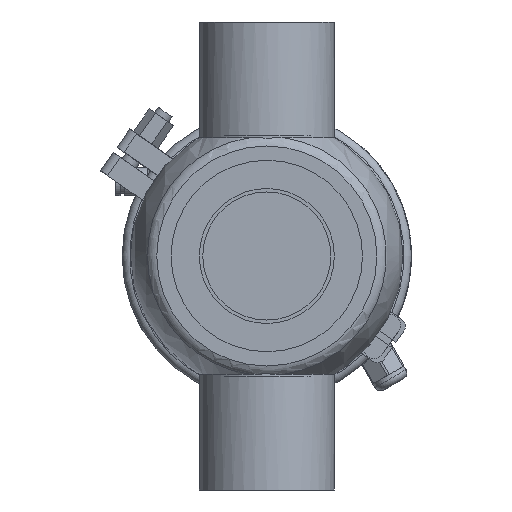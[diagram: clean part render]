
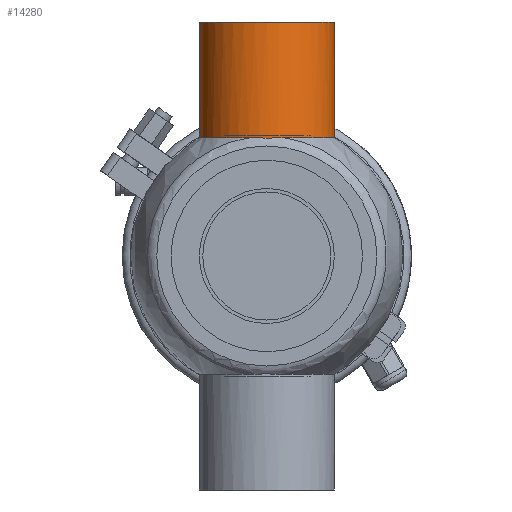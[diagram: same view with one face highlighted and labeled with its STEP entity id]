
A CAD part, front view. The second image highlights one B-rep face of the part: STEP entity #14280.
In plain terms, the highlighted cylindrical face has radius 31.75 mm (diameter 63.5 mm), a full revolution.
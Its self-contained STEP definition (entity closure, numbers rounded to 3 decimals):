
#2308 = DIRECTION ( 'NONE',  ( -1., 0., 0. ) ) ;
#3539 = CARTESIAN_POINT ( 'NONE',  ( 55.532, -31.293, 5.541 ) ) ;
#3625 = VERTEX_POINT ( 'NONE', #31696 ) ;
#4140 = CARTESIAN_POINT ( 'NONE',  ( 55.442, -31.749, 1.419 ) ) ;
#6976 = CARTESIAN_POINT ( 'NONE',  ( 0., 0., 0. ) ) ;
#7154 = B_SPLINE_CURVE_WITH_KNOTS ( 'NONE', 3,
 ( #23606, #27617, #3539, #46378, #4140, #59682, #41778, #45745, #18411, #17488, #36225, #37147 ),
 .UNSPECIFIED., .F., .F.,
 ( 4, 2, 2, 2, 2, 4 ),
 ( 0., 0.004, 0.008, 0.01, 0.012, 0.017 ),
 .UNSPECIFIED. ) ;
#8878 = AXIS2_PLACEMENT_3D ( 'NONE', #6976, #2308, #54411 ) ;
#9435 = EDGE_LOOP ( 'NONE', ( #42635, #37507 ) ) ;
#10994 = CARTESIAN_POINT ( 'NONE',  ( 55.569, -30.657, -8.258 ) ) ;
#11937 = DIRECTION ( 'NONE',  ( 1., 0., 0. ) ) ;
#12521 = CARTESIAN_POINT ( 'NONE',  ( 55.569, -30.657, 8.258 ) ) ;
#13215 = VERTEX_POINT ( 'NONE', #12521 ) ;
#13331 = ORIENTED_EDGE ( 'NONE', *, *, #26474, .T. ) ;
#13838 = EDGE_LOOP ( 'NONE', ( #13331 ) ) ;
#14280 = ADVANCED_FACE ( 'NONE', ( #21801, #49207 ), #39939, .T. ) ;
#14621 = VERTEX_POINT ( 'NONE', #10994 ) ;
#15134 = DIRECTION ( 'NONE',  ( -1., 0., 0. ) ) ;
#17488 = CARTESIAN_POINT ( 'NONE',  ( 55.532, -31.295, -5.534 ) ) ;
#18411 = CARTESIAN_POINT ( 'NONE',  ( 55.483, -31.569, -3.456 ) ) ;
#19501 = CIRCLE ( 'NONE', #51877, 31.75 ) ;
#21618 = AXIS2_PLACEMENT_3D ( 'NONE', #60020, #11937, #31944 ) ;
#21801 = FACE_OUTER_BOUND ( 'NONE', #9435, .T. ) ;
#23606 = CARTESIAN_POINT ( 'NONE',  ( 55.569, -30.657, 8.258 ) ) ;
#26474 = EDGE_CURVE ( 'NONE', #3625, #3625, #19501, .T. ) ;
#27617 = CARTESIAN_POINT ( 'NONE',  ( 55.569, -31.022, 6.904 ) ) ;
#31696 = CARTESIAN_POINT ( 'NONE',  ( 110., 0., 31.75 ) ) ;
#31944 = DIRECTION ( 'NONE',  ( 0., 0., 1. ) ) ;
#33861 = DIRECTION ( 'NONE',  ( 0., 0., 1. ) ) ;
#36225 = CARTESIAN_POINT ( 'NONE',  ( 55.569, -31.022, -6.903 ) ) ;
#36354 = CIRCLE ( 'NONE', #21618, 31.75 ) ;
#37147 = CARTESIAN_POINT ( 'NONE',  ( 55.569, -30.657, -8.258 ) ) ;
#37453 = EDGE_CURVE ( 'NONE', #13215, #14621, #7154, .T. ) ;
#37507 = ORIENTED_EDGE ( 'NONE', *, *, #37453, .T. ) ;
#38448 = EDGE_CURVE ( 'NONE', #14621, #13215, #36354, .T. ) ;
#39939 = CYLINDRICAL_SURFACE ( 'NONE', #8878, 31.75 ) ;
#41778 = CARTESIAN_POINT ( 'NONE',  ( 55.447, -31.729, -1.361 ) ) ;
#42635 = ORIENTED_EDGE ( 'NONE', *, *, #38448, .T. ) ;
#45745 = CARTESIAN_POINT ( 'NONE',  ( 55.468, -31.638, -2.759 ) ) ;
#46378 = CARTESIAN_POINT ( 'NONE',  ( 55.468, -31.657, 2.799 ) ) ;
#49207 = FACE_OUTER_BOUND ( 'NONE', #13838, .T. ) ;
#51877 = AXIS2_PLACEMENT_3D ( 'NONE', #57328, #15134, #33861 ) ;
#54411 = DIRECTION ( 'NONE',  ( 0., 0., 1. ) ) ;
#57328 = CARTESIAN_POINT ( 'NONE',  ( 110., 0., 0. ) ) ;
#59682 = CARTESIAN_POINT ( 'NONE',  ( 55.442, -31.751, -0.664 ) ) ;
#60020 = CARTESIAN_POINT ( 'NONE',  ( 55.569, 0., 0. ) ) ;
